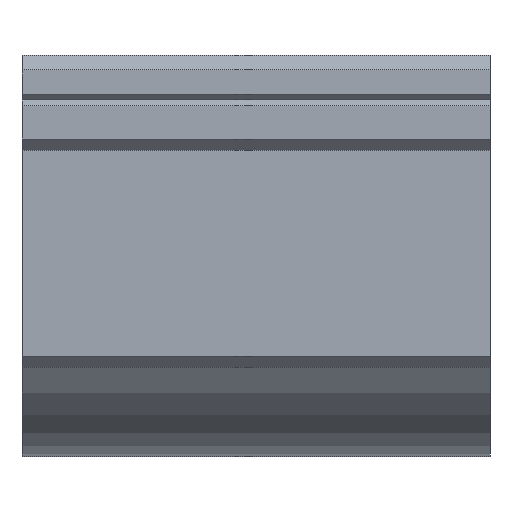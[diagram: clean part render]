
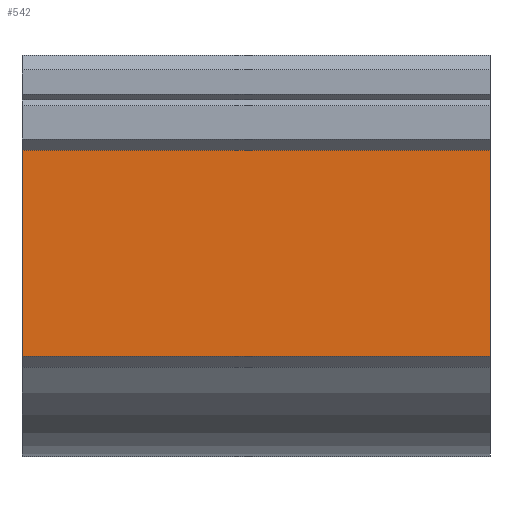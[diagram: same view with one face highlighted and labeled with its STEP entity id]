
A CAD part, front view. The second image highlights one B-rep face of the part: STEP entity #542.
In plain terms, the highlighted planar face has unit normal (0, -1, 0).
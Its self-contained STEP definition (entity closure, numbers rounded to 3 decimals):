
#361=CARTESIAN_POINT('',(0.0,-21.,-8.));
#362=VERTEX_POINT('',#361);
#369=CARTESIAN_POINT('',(0.0,-21.0,10.5));
#370=VERTEX_POINT('',#369);
#371=CARTESIAN_POINT('',(0.0,-21.,-8.));
#372=DIRECTION('',(0.0,0.0,1.0));
#373=VECTOR('',#372,18.5);
#374=LINE('',#371,#373);
#375=EDGE_CURVE('',#362,#370,#374,.T.);
#495=CARTESIAN_POINT('',(42.0,-21.,-8.));
#496=VERTEX_POINT('',#495);
#503=CARTESIAN_POINT('',(42.0,-21.,-8.));
#504=DIRECTION('',(-1.0,0.0,0.0));
#505=VECTOR('',#504,42.0);
#506=LINE('',#503,#505);
#507=EDGE_CURVE('',#496,#362,#506,.T.);
#519=CARTESIAN_POINT('',(0.0,-21.,-9.));
#520=DIRECTION('',(0.0,-1.0,0.0));
#521=DIRECTION('',(0.0,0.0,-1.0));
#522=AXIS2_PLACEMENT_3D('',#519,#520,#521);
#523=PLANE('',#522);
#524=ORIENTED_EDGE('',*,*,#507,.F.);
#525=CARTESIAN_POINT('',(42.0,-21.0,10.5));
#526=VERTEX_POINT('',#525);
#527=CARTESIAN_POINT('',(42.0,-21.,-8.));
#528=DIRECTION('',(0.0,0.0,1.0));
#529=VECTOR('',#528,18.5);
#530=LINE('',#527,#529);
#531=EDGE_CURVE('',#496,#526,#530,.T.);
#532=ORIENTED_EDGE('',*,*,#531,.T.);
#533=CARTESIAN_POINT('',(0.0,-21.0,10.5));
#534=DIRECTION('',(1.0,0.0,0.0));
#535=VECTOR('',#534,42.0);
#536=LINE('',#533,#535);
#537=EDGE_CURVE('',#370,#526,#536,.T.);
#538=ORIENTED_EDGE('',*,*,#537,.F.);
#539=ORIENTED_EDGE('',*,*,#375,.F.);
#540=EDGE_LOOP('',(#524,#532,#538,#539));
#541=FACE_OUTER_BOUND('',#540,.T.);
#542=ADVANCED_FACE('',(#541),#523,.T.);
